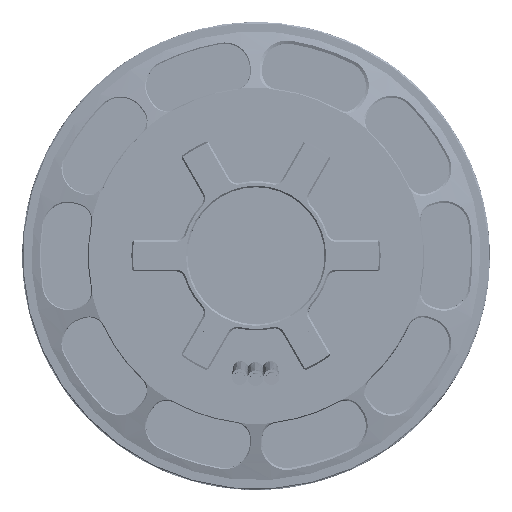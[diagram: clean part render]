
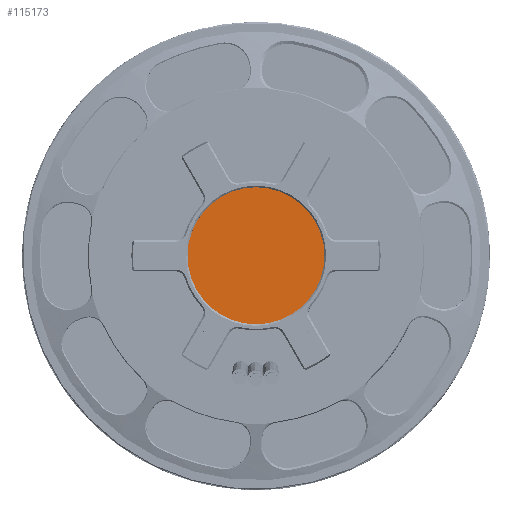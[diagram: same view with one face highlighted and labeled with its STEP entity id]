
A CAD part, top view. The second image highlights one B-rep face of the part: STEP entity #115173.
In plain terms, the highlighted planar face has unit normal (0, 0, 1).
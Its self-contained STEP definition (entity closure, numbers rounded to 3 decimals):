
#940 = EDGE_LOOP ( 'NONE', ( #261897, #155061 ) ) ;
#23910 = VERTEX_POINT ( 'NONE', #252781 ) ;
#56051 = CARTESIAN_POINT ( 'NONE',  ( 0., 0., 60.2 ) ) ;
#56853 = DIRECTION ( 'NONE',  ( 0., 0., 1. ) ) ;
#57513 = PLANE ( 'NONE',  #263082 ) ;
#60866 = CIRCLE ( 'NONE', #212291, 22. ) ;
#61502 = VERTEX_POINT ( 'NONE', #117292 ) ;
#70226 = CIRCLE ( 'NONE', #108121, 22. ) ;
#75243 = CARTESIAN_POINT ( 'NONE',  ( 0., 0., 60.2 ) ) ;
#84335 = EDGE_CURVE ( 'NONE', #61502, #23910, #60866, .T. ) ;
#97599 = DIRECTION ( 'NONE',  ( 1., 0., 0. ) ) ;
#108121 = AXIS2_PLACEMENT_3D ( 'NONE', #215377, #56853, #169534 ) ;
#115173 = ADVANCED_FACE ( 'NONE', ( #260577 ), #57513, .T. ) ;
#117292 = CARTESIAN_POINT ( 'NONE',  ( 22., 0., 60.2 ) ) ;
#146513 = DIRECTION ( 'NONE',  ( 0., 0., 1. ) ) ;
#155061 = ORIENTED_EDGE ( 'NONE', *, *, #217685, .T. ) ;
#159814 = DIRECTION ( 'NONE',  ( 1., 0., 0. ) ) ;
#169534 = DIRECTION ( 'NONE',  ( 1., 0., 0. ) ) ;
#212291 = AXIS2_PLACEMENT_3D ( 'NONE', #75243, #272423, #159814 ) ;
#215377 = CARTESIAN_POINT ( 'NONE',  ( 0., 0., 60.2 ) ) ;
#217685 = EDGE_CURVE ( 'NONE', #23910, #61502, #70226, .T. ) ;
#252781 = CARTESIAN_POINT ( 'NONE',  ( -22., 0., 60.2 ) ) ;
#260577 = FACE_OUTER_BOUND ( 'NONE', #940, .T. ) ;
#261897 = ORIENTED_EDGE ( 'NONE', *, *, #84335, .T. ) ;
#263082 = AXIS2_PLACEMENT_3D ( 'NONE', #56051, #146513, #97599 ) ;
#272423 = DIRECTION ( 'NONE',  ( 0., 0., 1. ) ) ;
